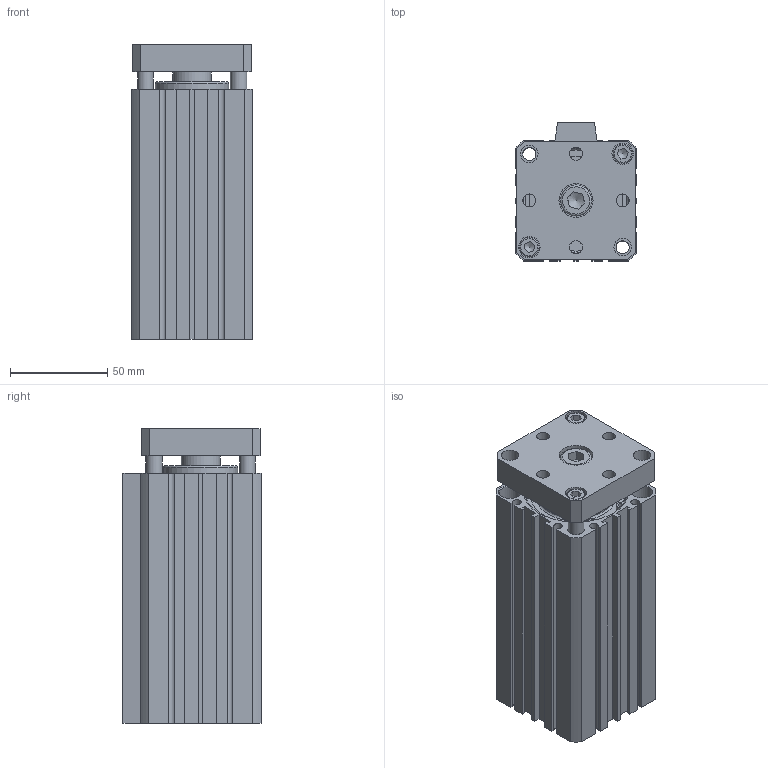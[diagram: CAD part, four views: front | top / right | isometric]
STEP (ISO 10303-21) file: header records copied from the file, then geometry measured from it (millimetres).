
FILE_DESCRIPTION((''),'2;1');
FILE_NAME('I:\3D電子目錄\氣缸\JTD\JTD\JTD50\JTD50x100.stp','2007-08-14T19:29:15',('Administrator'),(''),'Autodesk Inventor 11','Autodesk Inventor 11','');
FILE_SCHEMA(('AUTOMOTIVE_DESIGN { 1 0 10303 214 1 1 1 1 }'));
Length unit declared in the file: millimetre
Products named in the file (5): JTD50; R 形環 52; ISO 4762 M10 x 16; ISO 4762 M6 x 20
Assembly tree (6 placements, depth 2):
  JTD50
    JTD50
    R 形環 52  x2
    ISO 4762 M10 x 16
    ISO 4762 M6 x 20  x2
Bounding box: 62 x 71 x 151.6 mm (x, y, z)
Volume: 492948.2 mm3; surface area: 94836.6 mm2
Topology: 6 solids, 6 shells, 228 faces, 548 edges, 360 vertices
Faces by surface type: plane 135, cylinder 58, bspline 16, cone 14, torus 5
Full cylindrical faces by diameter (mm): 2.3 x4, 2.7 x2, 6 x2, 6.8 x2, 8 x2, 8.5 x3, 9 x2, 10 x3, 11 x4, 16 x1, 20 x1, 37 x1, 38 x1, 52 x4, 55 x2
Entity records: 5925 total; most frequent: CARTESIAN_POINT 1242, DIRECTION 938, ORIENTED_EDGE 844, EDGE_CURVE 422, AXIS2_PLACEMENT_3D 331, EDGE_LOOP 314, VERTEX_POINT 313, VECTOR 276
